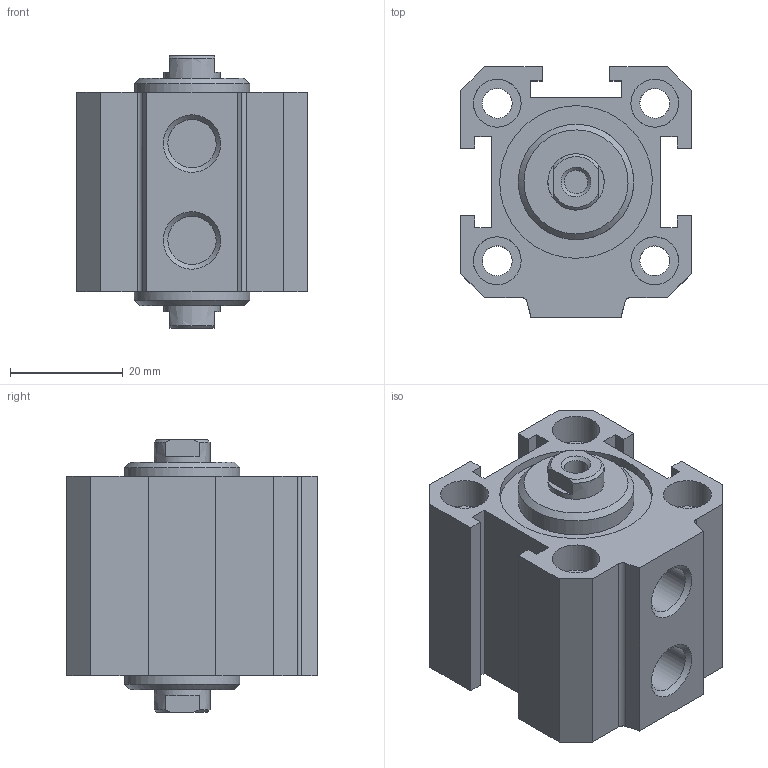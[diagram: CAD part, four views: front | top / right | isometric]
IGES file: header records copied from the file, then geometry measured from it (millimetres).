
Global section: file name: 1514_25_0000; native system: Autodesk Inventor 2014; preprocessor: unknown; author: A. Manieri; date: 20160824.111935; units: millimetre
Bounding box: 41 x 44.5 x 48.5 mm (x, y, z)
Volume: 47503.4 mm3; surface area: 20385.2 mm2
Topology: 2 solids, 2 shells, 106 faces, 280 edges, 198 vertices
Faces by surface type: bspline 106
